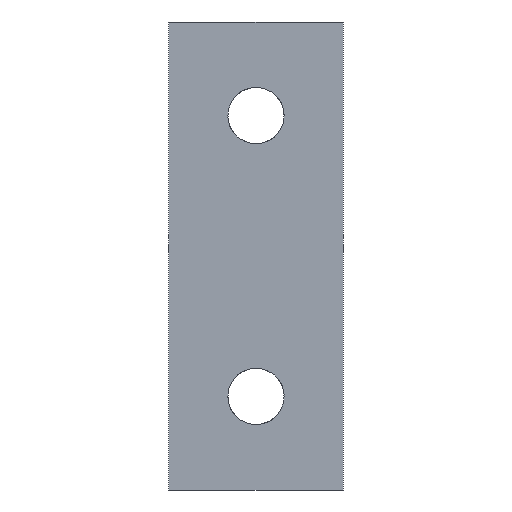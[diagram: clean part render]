
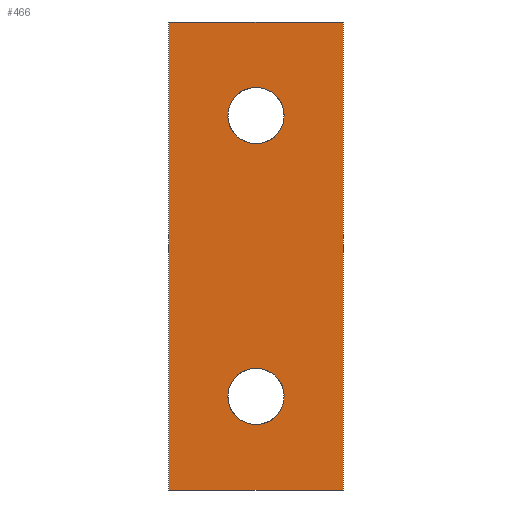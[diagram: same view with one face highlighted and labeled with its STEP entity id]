
A CAD part, front view. The second image highlights one B-rep face of the part: STEP entity #466.
In plain terms, the highlighted face is a extrusion surface.
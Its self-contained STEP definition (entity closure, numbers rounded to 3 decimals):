
#355=CARTESIAN_POINT('Control Point',(-28.,0.,0.)) ;
#356=CARTESIAN_POINT('Control Point',(-28.,0.,-75.)) ;
#360=CARTESIAN_POINT('Line Origine',(-14.,0.,-75.)) ;
#364=CARTESIAN_POINT('Vertex',(-28.,0.,-75.)) ;
#366=CARTESIAN_POINT('Vertex',(0.,0.,-75.)) ;
#369=CARTESIAN_POINT('Line Origine',(0.,0.,-37.5)) ;
#373=CARTESIAN_POINT('Vertex',(0.,0.,0.)) ;
#376=CARTESIAN_POINT('Line Origine',(-14.,0.,0.)) ;
#380=CARTESIAN_POINT('Vertex',(-28.,0.,0.)) ;
#383=CARTESIAN_POINT('Line Origine',(-28.,0.,-37.5)) ;
#395=CARTESIAN_POINT('Control Point',(-9.5,0.,-60.)) ;
#396=CARTESIAN_POINT('Control Point',(-9.5,0.,-61.247)) ;
#397=CARTESIAN_POINT('Control Point',(-9.932,0.,-62.494)) ;
#398=CARTESIAN_POINT('Control Point',(-10.8,0.,-63.539)) ;
#399=CARTESIAN_POINT('Control Point',(-12.71,0.,-64.63)) ;
#400=CARTESIAN_POINT('Control Point',(-14.841,0.,-64.54)) ;
#401=CARTESIAN_POINT('Control Point',(-15.671,0.,-64.305)) ;
#402=CARTESIAN_POINT('Control Point',(-17.085,0.,-63.511)) ;
#403=CARTESIAN_POINT('Control Point',(-18.032,0.,-62.204)) ;
#404=CARTESIAN_POINT('Control Point',(-18.344,0.,-61.498)) ;
#405=CARTESIAN_POINT('Control Point',(-18.5,0.,-60.749)) ;
#406=CARTESIAN_POINT('Control Point',(-18.5,0.,-60.)) ;
#407=CARTESIAN_POINT('Vertex',(-9.5,0.,-60.)) ;
#409=CARTESIAN_POINT('Vertex',(-18.5,0.,-60.)) ;
#413=CARTESIAN_POINT('Control Point',(-18.5,0.,-60.)) ;
#414=CARTESIAN_POINT('Control Point',(-18.5,0.,-58.753)) ;
#415=CARTESIAN_POINT('Control Point',(-18.068,0.,-57.506)) ;
#416=CARTESIAN_POINT('Control Point',(-17.2,0.,-56.461)) ;
#417=CARTESIAN_POINT('Control Point',(-15.29,0.,-55.37)) ;
#418=CARTESIAN_POINT('Control Point',(-13.159,0.,-55.46)) ;
#419=CARTESIAN_POINT('Control Point',(-12.329,0.,-55.695)) ;
#420=CARTESIAN_POINT('Control Point',(-10.915,0.,-56.489)) ;
#421=CARTESIAN_POINT('Control Point',(-9.968,0.,-57.796)) ;
#422=CARTESIAN_POINT('Control Point',(-9.656,0.,-58.502)) ;
#423=CARTESIAN_POINT('Control Point',(-9.5,0.,-59.251)) ;
#424=CARTESIAN_POINT('Control Point',(-9.5,0.,-60.)) ;
#431=CARTESIAN_POINT('Control Point',(-9.5,0.,-15.)) ;
#432=CARTESIAN_POINT('Control Point',(-9.5,0.,-16.247)) ;
#433=CARTESIAN_POINT('Control Point',(-9.932,0.,-17.494)) ;
#434=CARTESIAN_POINT('Control Point',(-10.8,0.,-18.539)) ;
#435=CARTESIAN_POINT('Control Point',(-12.71,0.,-19.63)) ;
#436=CARTESIAN_POINT('Control Point',(-14.841,0.,-19.54)) ;
#437=CARTESIAN_POINT('Control Point',(-15.671,0.,-19.305)) ;
#438=CARTESIAN_POINT('Control Point',(-17.085,0.,-18.511)) ;
#439=CARTESIAN_POINT('Control Point',(-18.032,0.,-17.204)) ;
#440=CARTESIAN_POINT('Control Point',(-18.344,0.,-16.498)) ;
#441=CARTESIAN_POINT('Control Point',(-18.5,0.,-15.749)) ;
#442=CARTESIAN_POINT('Control Point',(-18.5,0.,-15.)) ;
#443=CARTESIAN_POINT('Vertex',(-9.5,0.,-15.)) ;
#445=CARTESIAN_POINT('Vertex',(-18.5,0.,-15.)) ;
#449=CARTESIAN_POINT('Control Point',(-18.5,0.,-15.)) ;
#450=CARTESIAN_POINT('Control Point',(-18.5,0.,-13.753)) ;
#451=CARTESIAN_POINT('Control Point',(-18.068,0.,-12.506)) ;
#452=CARTESIAN_POINT('Control Point',(-17.2,0.,-11.461)) ;
#453=CARTESIAN_POINT('Control Point',(-15.29,0.,-10.37)) ;
#454=CARTESIAN_POINT('Control Point',(-13.159,0.,-10.46)) ;
#455=CARTESIAN_POINT('Control Point',(-12.329,0.,-10.695)) ;
#456=CARTESIAN_POINT('Control Point',(-10.915,0.,-11.489)) ;
#457=CARTESIAN_POINT('Control Point',(-9.968,0.,-12.796)) ;
#458=CARTESIAN_POINT('Control Point',(-9.656,0.,-13.502)) ;
#459=CARTESIAN_POINT('Control Point',(-9.5,0.,-14.251)) ;
#460=CARTESIAN_POINT('Control Point',(-9.5,0.,-15.)) ;
#357=DIRECTION('Vector Direction',(1.,0.,0.)) ;
#361=DIRECTION('Vector Direction',(1.,0.,0.)) ;
#370=DIRECTION('Vector Direction',(0.,0.,-1.)) ;
#377=DIRECTION('Vector Direction',(1.,0.,0.)) ;
#384=DIRECTION('Vector Direction',(0.,0.,-1.)) ;
#389=ORIENTED_EDGE('',*,*,#368,.T.) ;
#390=ORIENTED_EDGE('',*,*,#375,.T.) ;
#391=ORIENTED_EDGE('',*,*,#382,.T.) ;
#392=ORIENTED_EDGE('',*,*,#387,.T.) ;
#427=ORIENTED_EDGE('',*,*,#411,.T.) ;
#428=ORIENTED_EDGE('',*,*,#425,.T.) ;
#463=ORIENTED_EDGE('',*,*,#447,.T.) ;
#464=ORIENTED_EDGE('',*,*,#461,.T.) ;
#429=FACE_BOUND('',#426,.T.) ;
#465=FACE_BOUND('',#462,.T.) ;
#358=VECTOR('Extrusion Surface Vector',#357,1.) ;
#362=VECTOR('Line Direction',#361,1.) ;
#371=VECTOR('Line Direction',#370,1.) ;
#378=VECTOR('Line Direction',#377,1.) ;
#385=VECTOR('Line Direction',#384,1.) ;
#466=ADVANCED_FACE('Superficie.6',(#393,#429,#465),#359,.T.) ;
#354=B_SPLINE_CURVE_WITH_KNOTS('',1,(#355,#356),.UNSPECIFIED.,.F.,.U.,(2,2),(-37.5,37.5),.UNSPECIFIED.) ;
#394=B_SPLINE_CURVE_WITH_KNOTS('',5,(#395,#396,#397,#398,#399,#400,#401,#402,#403,#404,#405,#406),.UNSPECIFIED.,.F.,.U.,(6,3,3,6),(0.,8.818,14.697,19.993),.UNSPECIFIED.) ;
#412=B_SPLINE_CURVE_WITH_KNOTS('',5,(#413,#414,#415,#416,#417,#418,#419,#420,#421,#422,#423,#424),.UNSPECIFIED.,.F.,.U.,(6,3,3,6),(0.,8.818,14.697,19.993),.UNSPECIFIED.) ;
#430=B_SPLINE_CURVE_WITH_KNOTS('',5,(#431,#432,#433,#434,#435,#436,#437,#438,#439,#440,#441,#442),.UNSPECIFIED.,.F.,.U.,(6,3,3,6),(0.,8.818,14.697,19.993),.UNSPECIFIED.) ;
#448=B_SPLINE_CURVE_WITH_KNOTS('',5,(#449,#450,#451,#452,#453,#454,#455,#456,#457,#458,#459,#460),.UNSPECIFIED.,.F.,.U.,(6,3,3,6),(0.,8.818,14.697,19.993),.UNSPECIFIED.) ;
#368=EDGE_CURVE('',#365,#367,#363,.T.) ;
#375=EDGE_CURVE('',#367,#374,#372,.F.) ;
#382=EDGE_CURVE('',#374,#381,#379,.F.) ;
#387=EDGE_CURVE('',#381,#365,#386,.T.) ;
#411=EDGE_CURVE('',#408,#410,#394,.T.) ;
#425=EDGE_CURVE('',#410,#408,#412,.T.) ;
#447=EDGE_CURVE('',#444,#446,#430,.T.) ;
#461=EDGE_CURVE('',#446,#444,#448,.T.) ;
#388=EDGE_LOOP('',(#389,#390,#391,#392)) ;
#426=EDGE_LOOP('',(#427,#428)) ;
#462=EDGE_LOOP('',(#463,#464)) ;
#393=FACE_OUTER_BOUND('',#388,.T.) ;
#363=LINE('Line',#360,#362) ;
#372=LINE('Line',#369,#371) ;
#379=LINE('Line',#376,#378) ;
#386=LINE('Line',#383,#385) ;
#359=SURFACE_OF_LINEAR_EXTRUSION('generated tabulated cylinder',#354,#358) ;
#365=VERTEX_POINT('',#364) ;
#367=VERTEX_POINT('',#366) ;
#374=VERTEX_POINT('',#373) ;
#381=VERTEX_POINT('',#380) ;
#408=VERTEX_POINT('',#407) ;
#410=VERTEX_POINT('',#409) ;
#444=VERTEX_POINT('',#443) ;
#446=VERTEX_POINT('',#445) ;
